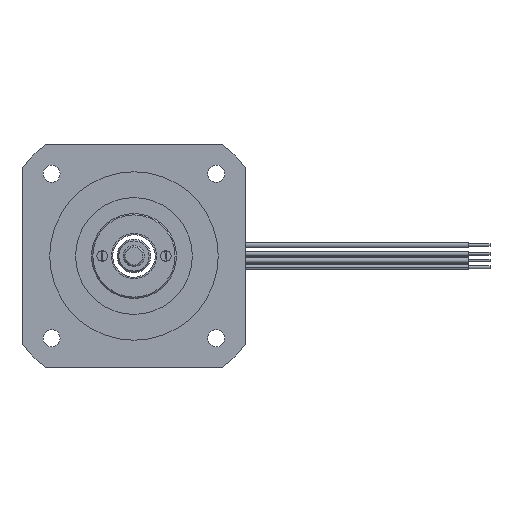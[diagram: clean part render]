
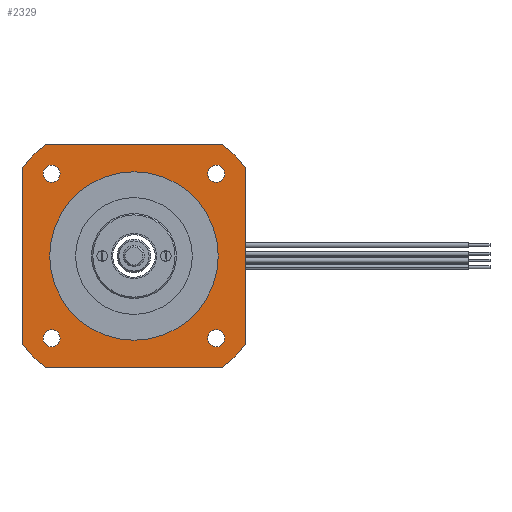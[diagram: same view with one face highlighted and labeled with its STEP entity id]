
A CAD part, left-side view. The second image highlights one B-rep face of the part: STEP entity #2329.
In plain terms, the highlighted planar face has unit normal (-1, 0, 0).
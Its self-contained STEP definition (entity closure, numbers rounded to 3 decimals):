
#1954=CARTESIAN_POINT('',(-18.357,16.707,21.));
#1955=VERTEX_POINT('',#1954);
#1962=CARTESIAN_POINT('',(-18.357,-16.707,21.));
#1963=VERTEX_POINT('',#1962);
#1964=CARTESIAN_POINT('',(-18.357,16.707,21.));
#1965=DIRECTION('',(0.,-1.,0.));
#1966=VECTOR('',#1965,33.414);
#1967=LINE('',#1964,#1966);
#1968=EDGE_CURVE('',#1955,#1963,#1967,.T.);
#2197=CARTESIAN_POINT('',(-18.357,21.,16.707));
#2198=VERTEX_POINT('',#2197);
#2205=CARTESIAN_POINT('',(-18.357,0.,0.));
#2206=DIRECTION('',(0.,0.783,0.623));
#2207=DIRECTION('',(1.,0.,0.));
#2208=AXIS2_PLACEMENT_3D('',#2205,#2207,#2206);
#2209=CIRCLE('',#2208,26.835);
#2210=EDGE_CURVE('',#2198,#1955,#2209,.T.);
#2216=CARTESIAN_POINT('',(-18.357,0.,0.));
#2217=DIRECTION('',(0.,-1.,0.));
#2218=DIRECTION('',(-1.,0.,0.));
#2219=AXIS2_PLACEMENT_3D('',#2216,#2218,#2217);
#2220=PLANE('',#2219);
#2221=CARTESIAN_POINT('',(-18.357,16.707,-21.));
#2222=VERTEX_POINT('',#2221);
#2223=CARTESIAN_POINT('',(-18.357,21.,-16.707));
#2224=VERTEX_POINT('',#2223);
#2225=CARTESIAN_POINT('',(-18.357,0.,0.));
#2226=DIRECTION('',(0.,0.623,-0.783));
#2227=DIRECTION('',(1.,0.,0.));
#2228=AXIS2_PLACEMENT_3D('',#2225,#2227,#2226);
#2229=CIRCLE('',#2228,26.835);
#2230=EDGE_CURVE('',#2222,#2224,#2229,.T.);
#2231=ORIENTED_EDGE('E14',*,*,#2230,.F.);
#2232=CARTESIAN_POINT('',(-18.357,-16.707,-21.));
#2233=VERTEX_POINT('',#2232);
#2234=CARTESIAN_POINT('',(-18.357,-16.707,-21.));
#2235=DIRECTION('',(0.,1.,0.));
#2236=VECTOR('',#2235,33.414);
#2237=LINE('',#2234,#2236);
#2238=EDGE_CURVE('',#2233,#2222,#2237,.T.);
#2239=ORIENTED_EDGE('E11',*,*,#2238,.F.);
#2240=CARTESIAN_POINT('',(-18.357,-21.,-16.707));
#2241=VERTEX_POINT('',#2240);
#2242=CARTESIAN_POINT('',(-18.357,0.,0.));
#2243=DIRECTION('',(0.,-0.783,-0.623));
#2244=DIRECTION('',(1.,0.,0.));
#2245=AXIS2_PLACEMENT_3D('',#2242,#2244,#2243);
#2246=CIRCLE('',#2245,26.835);
#2247=EDGE_CURVE('',#2241,#2233,#2246,.T.);
#2248=ORIENTED_EDGE('E50',*,*,#2247,.F.);
#2249=CARTESIAN_POINT('',(-18.357,-21.,16.707));
#2250=VERTEX_POINT('',#2249);
#2251=CARTESIAN_POINT('',(-18.357,-21.,16.707));
#2252=DIRECTION('',(0.,0.,-1.));
#2253=VECTOR('',#2252,33.414);
#2254=LINE('',#2251,#2253);
#2255=EDGE_CURVE('',#2250,#2241,#2254,.T.);
#2256=ORIENTED_EDGE('E47',*,*,#2255,.F.);
#2257=CARTESIAN_POINT('',(-18.357,0.,0.));
#2258=DIRECTION('',(0.,-0.623,0.783));
#2259=DIRECTION('',(1.,0.,0.));
#2260=AXIS2_PLACEMENT_3D('',#2257,#2259,#2258);
#2261=CIRCLE('',#2260,26.835);
#2262=EDGE_CURVE('',#1963,#2250,#2261,.T.);
#2263=ORIENTED_EDGE('E38',*,*,#2262,.F.);
#2264=ORIENTED_EDGE('E38',*,*,#1968,.F.);
#2265=ORIENTED_EDGE('E38',*,*,#2210,.F.);
#2266=CARTESIAN_POINT('',(-18.357,21.,-16.707));
#2267=DIRECTION('',(0.,0.,1.));
#2268=VECTOR('',#2267,33.414);
#2269=LINE('',#2266,#2268);
#2270=EDGE_CURVE('',#2224,#2198,#2269,.T.);
#2271=ORIENTED_EDGE('E23',*,*,#2270,.F.);
#2272=EDGE_LOOP('',(#2231,#2239,#2248,#2256,#2263,#2264,#2265,#2271));
#2273=FACE_OUTER_BOUND('',#2272,.T.);
#2274=CARTESIAN_POINT('',(-18.357,15.52,-13.92));
#2275=VERTEX_POINT('',#2274);
#2276=CARTESIAN_POINT('',(-18.357,15.52,-15.52));
#2277=DIRECTION('',(0.,0.,1.));
#2278=DIRECTION('',(1.,0.,0.));
#2279=AXIS2_PLACEMENT_3D('',#2276,#2278,#2277);
#2280=CIRCLE('',#2279,1.6);
#2281=EDGE_CURVE('',#2275,#2275,#2280,.T.);
#2282=ORIENTED_EDGE('E93',*,*,#2281,.T.);
#2283=EDGE_LOOP('',(#2282));
#2284=FACE_BOUND('',#2283,.T.);
#2285=CARTESIAN_POINT('',(-18.357,-15.52,-13.92));
#2286=VERTEX_POINT('',#2285);
#2287=CARTESIAN_POINT('',(-18.357,-15.52,-15.52));
#2288=DIRECTION('',(0.,0.,1.));
#2289=DIRECTION('',(1.,0.,0.));
#2290=AXIS2_PLACEMENT_3D('',#2287,#2289,#2288);
#2291=CIRCLE('',#2290,1.6);
#2292=EDGE_CURVE('',#2286,#2286,#2291,.T.);
#2293=ORIENTED_EDGE('E94',*,*,#2292,.T.);
#2294=EDGE_LOOP('',(#2293));
#2295=FACE_BOUND('',#2294,.T.);
#2296=CARTESIAN_POINT('',(-18.357,15.52,17.12));
#2297=VERTEX_POINT('',#2296);
#2298=CARTESIAN_POINT('',(-18.357,15.52,15.52));
#2299=DIRECTION('',(0.,0.,1.));
#2300=DIRECTION('',(1.,0.,0.));
#2301=AXIS2_PLACEMENT_3D('',#2298,#2300,#2299);
#2302=CIRCLE('',#2301,1.6);
#2303=EDGE_CURVE('',#2297,#2297,#2302,.T.);
#2304=ORIENTED_EDGE('E95',*,*,#2303,.T.);
#2305=EDGE_LOOP('',(#2304));
#2306=FACE_BOUND('',#2305,.T.);
#2307=CARTESIAN_POINT('',(-18.357,-15.52,17.12));
#2308=VERTEX_POINT('',#2307);
#2309=CARTESIAN_POINT('',(-18.357,-15.52,15.52));
#2310=DIRECTION('',(0.,0.,1.));
#2311=DIRECTION('',(1.,0.,0.));
#2312=AXIS2_PLACEMENT_3D('',#2309,#2311,#2310);
#2313=CIRCLE('',#2312,1.6);
#2314=EDGE_CURVE('',#2308,#2308,#2313,.T.);
#2315=ORIENTED_EDGE('E96',*,*,#2314,.T.);
#2316=EDGE_LOOP('',(#2315));
#2317=FACE_BOUND('',#2316,.T.);
#2318=CARTESIAN_POINT('',(-18.357,-15.875,0.));
#2319=VERTEX_POINT('',#2318);
#2320=CARTESIAN_POINT('',(-18.357,0.,0.));
#2321=DIRECTION('',(0.,-1.,0.));
#2322=DIRECTION('',(1.,0.,0.));
#2323=AXIS2_PLACEMENT_3D('',#2320,#2322,#2321);
#2324=CIRCLE('',#2323,15.875);
#2325=EDGE_CURVE('',#2319,#2319,#2324,.T.);
#2326=ORIENTED_EDGE('E97',*,*,#2325,.T.);
#2327=EDGE_LOOP('',(#2326));
#2328=FACE_BOUND('',#2327,.T.);
#2329=ADVANCED_FACE('F28',(#2273,#2284,#2295,#2306,#2317,#2328),#2220,.T.);
